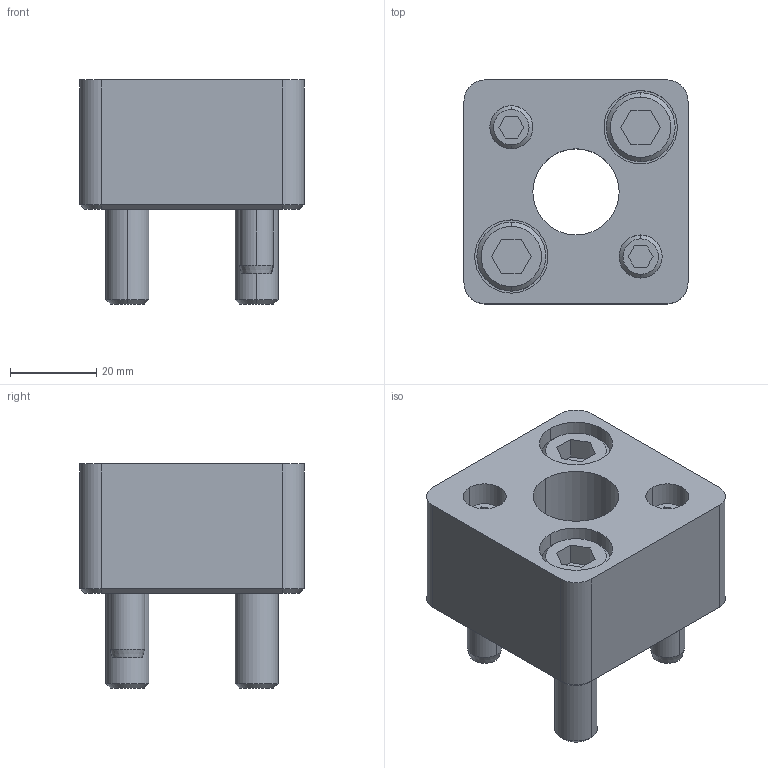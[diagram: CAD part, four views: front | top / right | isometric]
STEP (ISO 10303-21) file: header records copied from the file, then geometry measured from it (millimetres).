
FILE_DESCRIPTION(/* description */ (''),/* implementation_level */ '2;1');
FILE_NAME(/* name */ '3d_hmpsr20_04140_r00.stp',/* time_stamp */ '2011-01-10T14:14:41+09:00',/* author */ ('MISUMI'),/* organization */ (''),/* preprocessor_version */ 'ST-DEVELOPER v11',/* originating_system */ 'UGS - NX 5.0',/* authorisation */ '');
FILE_SCHEMA (('CONFIG_CONTROL_DESIGN'));
Length unit declared in the file: millimetre
Products named in the file (1): 3d_hmpsr20_04140_r00
Bounding box: 52 x 52 x 52 mm (x, y, z)
Volume: 71145 mm3; surface area: 23676.5 mm2
Topology: 7 solids, 7 shells, 143 faces, 310 edges, 196 vertices
Faces by surface type: plane 63, cylinder 50, cone 30
Entity records: 4026 total; most frequent: DIRECTION 718, CARTESIAN_POINT 704, ORIENTED_EDGE 620, EDGE_CURVE 310, AXIS2_PLACEMENT_3D 274, VERTEX_POINT 196, LINE 170, VECTOR 170
